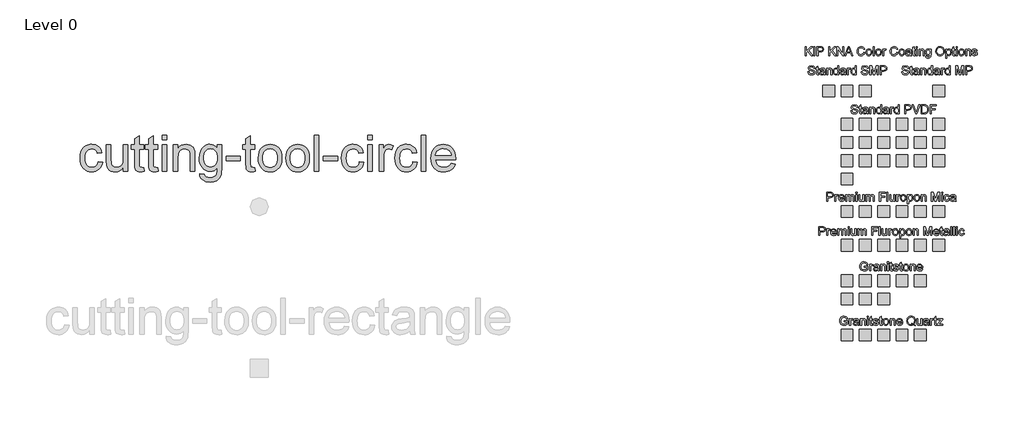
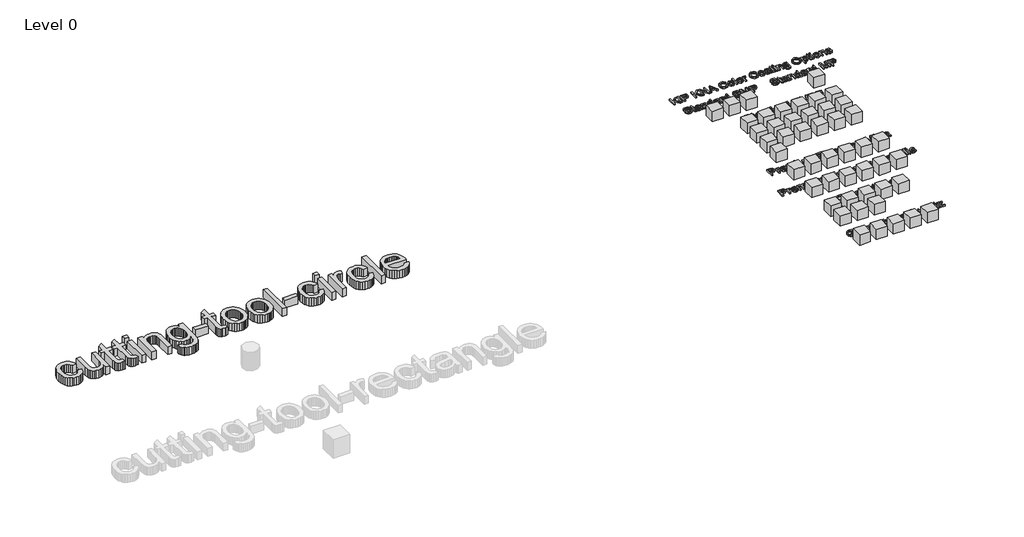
# One storey, part 3 of 3: 50 proxies.
"""IFC4 building model written with IfcOpenShell, lengths in millimetres."""

from ifc_helpers import new_model, si_unit, origin, origin_with_axes, place, context, project, spatial, polyline, outline, extrude, transform, mapped, element, save
from components import ks_color_sample_ks_color_sample_0243efec, r19_kna_color_range_kingspan_quadcore_4278cd54, r19_kna_color_range_kingspan_quadcore_c5814d20, r19_kna_color_range_kingspan_quadcore_91b79b7c

model = new_model("IFC4")

# Units and contexts
model_context = context("Model", 3, world=origin())
ifc_project = project(units=[si_unit("LENGTHUNIT", "METRE", prefix="MILLI")], contexts=[model_context])

# Site, building, storey
site = spatial("IfcSite", under=ifc_project)
building = spatial("IfcBuilding", under=site)
storey = spatial("IfcBuildingStorey", under=building, Name="Level 0", Elevation=0.0)

# Proxies
placement = place(None, origin())
element("IfcBuildingElementProxy", 1, Name="24\" Arial", ObjectType="24\" Arial", at=placement, inside=storey, context=model_context, shape_type="SweptSolid", body=[
    extrude(outline(polyline([(-204.0702103, 12441.0718493), (-127.9284368, 12431.5541276), (-136.20997, 12395.6256577), (-149.1574176, 12363.8333071), (-166.7707795, 12336.1770758), (-189.0500558, 12312.6569637), (-215.0564867, 12293.8864179), (-243.8513127, 12280.4788851), (-275.4345337, 12272.4343655), (-309.8061497, 12269.7528589), (-352.5104196, 12273.4939556), (-390.7997306, 12284.7172455), (-424.6740828, 12303.4227289), (-454.1334763, 12329.6104055), (-477.9789011, 12362.787659), (-495.0113474, 12402.4618729), (-505.2308151, 12448.6330472), (-508.6373044, 12501.3011819), (-502.8188534, 12569.059181), (-495.5457898, 12599.5502806), (-485.3635006, 12627.7827803), (-472.2022761, 12653.1897063), (-455.9924063, 12675.204085), (-436.7338913, 12693.8259165), (-414.4267311, 12709.0552006), (-390.0793952, 12720.8965849), (-364.7003531, 12729.3547164), (-338.2896049, 12734.4295954), (-310.8471505, 12736.1212217), (-277.0657448, 12733.7975592), (-246.5095826, 12726.8265716), (-219.178664, 12715.208259), (-195.072989, 12698.9426214), (-174.6015222, 12678.4014447), (-158.1732282, 12653.9565149), (-145.788107, 12625.6078322), (-137.4461585, 12593.3553964), (-213.587932, 12583.8376747), (-227.3997821, 12617.0567541), (-248.9076024, 12640.8696476), (-276.9216777, 12655.201998), (-310.2522929, 12659.9794482), (-336.1239515, 12657.6279017), (-359.4581705, 12650.5732623), (-380.2549501, 12638.8155299), (-398.5142902, 12622.3547046), (-413.381083, 12600.8097057), (-424.0002207, 12573.7994526), (-430.3717033, 12541.3239452), (-432.4955309, 12503.3831835), (-430.4181766, 12464.8708009), (-424.1861137, 12432.0188601), (-413.7993422, 12404.8273613), (-399.2578622, 12383.2963044), (-381.3610134, 12366.9330729), (-360.9081359, 12355.2450504), (-337.8992296, 12348.2322369), (-312.3342946, 12345.8946324), (-272.9063889, 12351.7316727), (-255.8553533, 12359.027973), (-240.5795959, 12369.2427934), (-227.5066705, 12382.4876698), (-217.0641312, 12398.8741379), (-209.2519778, 12418.4021978), (-204.0702103, 12441.0718493)])), origin_with_axes(), (0.0, 0.0, 1.0), 152.4),
    extrude(outline(polyline([(224.2272657, 12279.2705806), (224.2272657, 12356.1559261), (196.6779228, 12318.3545842), (164.5927907, 12291.3536257), (127.9718694, 12275.1530506), (86.8151588, 12269.7528589), (49.729505, 12273.5450761), (15.2091745, 12284.9217279), (-13.7529551, 12302.023884), (-34.1640067, 12322.9926146), (-47.9014996, 12348.4599558), (-56.8429529, 12379.0579439), (-61.304385, 12449.845999), (-61.304385, 12726.6035), (14.8373885, 12726.6035), (14.8373885, 12485.6861697), (15.9899251, 12437.5027037), (19.447535, 12408.0572522), (30.5453472, 12382.1623571), (49.5622013, 12362.4762882), (75.2340248, 12350.0400464), (106.2967454, 12345.8946324), (139.1440388, 12350.1329929), (169.872152, 12362.8480742), (195.2093681, 12382.8687505), (211.8839704, 12409.0238958), (221.1414419, 12444.8454773), (224.2272657, 12493.8654618), (224.2272657, 12726.6035), (300.3690392, 12726.6035), (300.3690392, 12279.2705806), (224.2272657, 12279.2705806)])), origin_with_axes(), (0.0, 0.0, 1.0), 152.4),
    extrude(outline(polyline([(566.8652465, 12342.77163), (576.3829682, 12277.0398646), (546.2311233, 12271.5746103), (519.4253525, 12269.7528589), (482.8787883, 12272.9130399), (455.6268743, 12282.393583), (436.3683593, 12297.004773), (423.8019924, 12315.5568945), (416.8867727, 12347.418955), (414.5816995, 12401.9599618), (414.5816995, 12650.4617265), (357.4753694, 12650.4617265), (357.4753694, 12726.6035), (414.5816995, 12726.6035), (414.5816995, 12835.3137274), (490.723473, 12880.0767623), (490.723473, 12726.6035), (566.8652465, 12726.6035), (566.8652465, 12650.4617265), (490.723473, 12650.4617265), (490.723473, 12404.1906778), (494.7387618, 12364.9300758), (507.751272, 12351.0252793), (518.7375484, 12347.1772941), (533.701935, 12345.8946324), (566.8652465, 12342.77163)])), origin_with_axes(), (0.0, 0.0, 1.0), 152.4),
    extrude(outline(polyline([(804.8082888, 12342.77163), (814.3260105, 12277.0398646), (784.1741656, 12271.5746103), (757.3683947, 12269.7528589), (720.8218306, 12272.9130399), (693.5699165, 12282.393583), (674.3114015, 12297.004773), (661.7450346, 12315.5568945), (654.829815, 12347.418955), (652.5247417, 12401.9599618), (652.5247417, 12650.4617265), (595.4184116, 12650.4617265), (595.4184116, 12726.6035), (652.5247417, 12726.6035), (652.5247417, 12835.3137274), (728.6665153, 12880.0767623), (728.6665153, 12726.6035), (804.8082888, 12726.6035), (804.8082888, 12650.4617265), (728.6665153, 12650.4617265), (728.6665153, 12404.1906778), (732.6818041, 12364.9300758), (745.6943142, 12351.0252793), (756.6805906, 12347.1772941), (771.6449773, 12345.8946324), (804.8082888, 12342.77163)])), origin_with_axes(), (0.0, 0.0, 1.0), 152.4),
    extrude(outline(polyline([(880.9500623, 12812.2629952), (880.9500623, 12888.4047687), (957.0918358, 12888.4047687), (957.0918358, 12812.2629952), (880.9500623, 12812.2629952)])), origin_with_axes(), (0.0, 0.0, 1.0), 152.4),
    extrude(outline(polyline([(880.9500623, 12279.2705806), (880.9500623, 12726.6035), (957.0918358, 12726.6035), (957.0918358, 12279.2705806), (880.9500623, 12279.2705806)])), origin_with_axes(), (0.0, 0.0, 1.0), 152.4),
    extrude(outline(polyline([(1071.3044961, 12279.2705806), (1071.3044961, 12726.6035), (1147.4462696, 12726.6035), (1147.4462696, 12664.1434514), (1173.8988437, 12695.6337259), (1205.6679577, 12718.1267791), (1242.7536116, 12731.6226111), (1285.1558053, 12736.1212217), (1322.6876023, 12732.4963082), (1357.0592184, 12721.6215676), (1385.7239192, 12704.8540188), (1406.1349708, 12683.5506808), (1419.9839995, 12657.7673215), (1428.9626314, 12627.5597087), (1432.9779203, 12553.94608), (1432.9779203, 12279.2705806), (1356.8361468, 12279.2705806), (1356.8361468, 12543.6847863), (1354.6426093, 12583.0569241), (1348.0619971, 12611.0524101), (1335.9231841, 12631.110265), (1317.0550444, 12646.6695093), (1292.8703649, 12656.6519635), (1264.7819323, 12659.9794482), (1241.6614902, 12658.1112235), (1220.1862012, 12652.5065495), (1200.3560652, 12643.1654262), (1182.1710823, 12630.0878535), (1166.9789768, 12611.7866875), (1156.1274728, 12586.7747841), (1149.6165704, 12555.0521433), (1147.4462696, 12516.6187652), (1147.4462696, 12279.2705806), (1071.3044961, 12279.2705806)])), origin_with_axes(), (0.0, 0.0, 1.0), 152.4),
    extrude(outline(polyline([(1518.6374155, 12241.1996938), (1594.779189, 12231.6819721), (1603.1815527, 12207.8876679), (1619.4657796, 12191.5290838), (1651.4765545, 12178.8140025), (1693.3768371, 12174.575642), (1738.0655148, 12179.3716815), (1756.1157252, 12185.3667308), (1771.3031835, 12193.7597998), (1794.3539157, 12216.810532), (1808.4817838, 12247.5944131), (1812.6086085, 12280.34876), (1813.6867879, 12336.3769107), (1788.3495717, 12311.3928913), (1760.0752462, 12293.5471631), (1728.8638112, 12282.8397262), (1694.7152668, 12279.2705806), (1652.9683459, 12283.4252892), (1616.2126521, 12295.889415), (1584.4481854, 12316.6629579), (1557.6749459, 12345.745918), (1536.4320231, 12380.6380345), (1521.2585068, 12418.8390463), (1512.1543971, 12460.3489536), (1509.1196938, 12505.1677563), (1514.5663588, 12566.642572), (1530.9063536, 12623.1726338), (1543.0172827, 12648.6632117), (1557.5634101, 12671.0772604), (1574.5447358, 12690.4147799), (1593.9612598, 12706.6757702), (1615.5016114, 12719.5581552), (1638.8544197, 12728.7598588), (1664.0196848, 12734.280881), (1690.9974067, 12736.1212217), (1726.6052112, 12731.9572185), (1758.9227096, 12719.4652087), (1787.9499018, 12698.6451925), (1813.6867879, 12669.4971699), (1813.6867879, 12726.6035), (1889.8285614, 12726.6035), (1889.8285614, 12340.3921996), (1884.6235573, 12251.2193266), (1878.1173023, 12218.0513678), (1869.0085452, 12192.4957274), (1857.0788618, 12171.8848408), (1842.1098278, 12153.5511435), (1824.1014433, 12137.4946355), (1803.0537082, 12123.7153167), (1779.1803994, 12112.6546831), (1752.695294, 12104.7542306), (1723.5983919, 12100.013959), (1691.8896931, 12098.4338685), (1654.585615, 12100.6599372), (1621.0458702, 12107.3381433), (1591.2704586, 12118.4684868), (1565.2593803, 12134.0509676), (1544.2488238, 12154.1041752), (1529.4749775, 12178.6466988), (1520.9378414, 12207.6785383), (1518.6374155, 12241.1996938)]), holes=[polyline([(1585.2614673, 12510.3727604), (1587.2923484, 12472.7247802), (1593.3849915, 12440.5327596), (1603.5393967, 12413.7966986), (1617.755564, 12392.5165973), (1635.0389659, 12376.2834909), (1654.3950747, 12364.6884149), (1675.8238904, 12357.7313693), (1699.3254132, 12355.4123541), (1722.5945697, 12357.7174273), (1743.9211443, 12364.632647), (1763.3051371, 12376.1580131), (1780.746548, 12392.2935257), (1795.1579029, 12413.3644974), (1805.4517279, 12439.6962411), (1811.6280229, 12471.2887568), (1813.6867879, 12508.1420444), (1811.5676077, 12543.4570674), (1805.210067, 12574.1526493), (1794.6141659, 12600.2287901), (1779.7799044, 12621.6854898), (1761.9620601, 12638.4390966), (1742.415411, 12650.4059586), (1721.1399569, 12657.5860758), (1698.135698, 12659.9794482), (1675.517167, 12657.6232544), (1654.6553249, 12650.554673), (1635.5501716, 12638.773704), (1618.2017072, 12622.2803474), (1603.7903523, 12601.1489605), (1593.4965273, 12575.4539003), (1587.3202323, 12545.1951669), (1585.2614673, 12510.3727604)])]), origin_with_axes(), (0.0, 0.0, 1.0), 152.4),
    extrude(outline(polyline([(1965.9703349, 12460.1072927), (1965.9703349, 12536.2490662), (2203.9133771, 12536.2490662), (2203.9133771, 12460.1072927), (1965.9703349, 12460.1072927)])), origin_with_axes(), (0.0, 0.0, 1.0), 152.4),
    extrude(outline(polyline([(2451.3741411, 12342.77163), (2460.8918628, 12277.0398646), (2430.7400179, 12271.5746103), (2403.934247, 12269.7528589), (2367.3876829, 12272.9130399), (2340.1357688, 12282.393583), (2320.8772538, 12297.004773), (2308.3108869, 12315.5568945), (2301.3956673, 12347.418955), (2299.090594, 12401.9599618), (2299.090594, 12650.4617265), (2241.9842639, 12650.4617265), (2241.9842639, 12726.6035), (2299.090594, 12726.6035), (2299.090594, 12835.3137274), (2375.2323676, 12880.0767623), (2375.2323676, 12726.6035), (2451.3741411, 12726.6035), (2451.3741411, 12650.4617265), (2375.2323676, 12650.4617265), (2375.2323676, 12404.1906778), (2379.2476564, 12364.9300758), (2392.2601665, 12351.0252793), (2403.2464429, 12347.1772941), (2418.2108296, 12345.8946324), (2451.3741411, 12342.77163)])), origin_with_axes(), (0.0, 0.0, 1.0), 152.4),
    extrude(outline(polyline([(2508.4804712, 12502.9370403), (2512.5980012, 12560.8705943), (2524.9505912, 12610.7921599), (2545.5382411, 12652.7017372), (2574.360951, 12686.599326), (2603.3788486, 12708.2651554), (2635.4082128, 12723.7407478), (2670.4490436, 12733.0261032), (2708.5013411, 12736.1212217), (2750.5085122, 12732.3522411), (2788.4910998, 12721.0452993), (2822.4491038, 12702.2003962), (2852.3825245, 12675.8175319), (2876.8135122, 12642.7889928), (2894.2642177, 12604.0070654), (2904.7346411, 12559.4717495), (2908.2247822, 12509.1830452), (2906.6818703, 12468.4260045), (2902.0531345, 12432.260521), (2894.3385749, 12400.6865947), (2883.5381915, 12373.7042255), (2869.7867567, 12350.3978904), (2853.219043, 12329.8520664), (2833.8350502, 12312.0667534), (2811.6347785, 12297.0419516), (2787.4826302, 12285.1029735), (2762.2430079, 12276.5751321), (2735.9159115, 12271.4584272), (2708.5013411, 12269.7528589), (2665.8807231, 12273.5078975), (2627.5449388, 12284.7730134), (2593.4939882, 12303.5482066), (2563.7278713, 12329.8334771), (2539.5571338, 12363.1826816), (2522.2923212, 12403.149677), (2511.9334337, 12449.7344632), (2508.4804712, 12502.9370403)]), holes=[polyline([(2584.6222447, 12503.0857547), (2586.8250768, 12466.1534626), (2593.433573, 12434.175219), (2604.4477334, 12407.1510238), (2619.8675579, 12385.0808772), (2638.6241617, 12367.9368951), (2659.6486602, 12355.6911936), (2682.9410534, 12348.3437727), (2708.5013411, 12345.8946324), (2733.9315037, 12348.3577147), (2757.1309504, 12355.7469615), (2778.099681, 12368.0623729), (2796.8376955, 12385.3039488), (2812.25752, 12407.5925197), (2823.2716804, 12435.0489161), (2829.8801766, 12467.6731379), (2832.0830087, 12505.4651851), (2829.8662346, 12541.2263513), (2823.2159125, 12572.3680765), (2812.1320422, 12598.8903605), (2796.6146239, 12620.7932034), (2777.8068995, 12637.9371855), (2756.8521109, 12650.182887), (2733.7502581, 12657.5303079), (2708.5013411, 12659.9794482), (2682.9410534, 12657.5396025), (2659.6486602, 12650.2200656), (2638.6241617, 12638.0208374), (2619.8675579, 12620.9419178), (2604.4477334, 12598.9368337), (2593.433573, 12571.9591119), (2586.8250768, 12540.0087522), (2584.6222447, 12503.0857547)])]), origin_with_axes(), (0.0, 0.0, 1.0), 152.4),
    extrude(outline(polyline([(2974.848834, 12502.9370403), (2978.966364, 12560.8705943), (2991.318954, 12610.7921599), (3011.9066039, 12652.7017372), (3040.7293138, 12686.599326), (3069.7472114, 12708.2651554), (3101.7765756, 12723.7407478), (3136.8174064, 12733.0261032), (3174.8697039, 12736.1212217), (3216.876875, 12732.3522411), (3254.8594625, 12721.0452993), (3288.8174666, 12702.2003962), (3318.7508872, 12675.8175319), (3343.181875, 12642.7889928), (3360.6325805, 12604.0070654), (3371.1030039, 12559.4717495), (3374.593145, 12509.1830452), (3373.0502331, 12468.4260045), (3368.4214973, 12432.260521), (3360.7069377, 12400.6865947), (3349.9065543, 12373.7042255), (3336.1551195, 12350.3978904), (3319.5874058, 12329.8520664), (3300.203413, 12312.0667534), (3278.0031413, 12297.0419516), (3253.850993, 12285.1029735), (3228.6113707, 12276.5751321), (3202.2842743, 12271.4584272), (3174.8697039, 12269.7528589), (3132.2490859, 12273.5078975), (3093.9133016, 12284.7730134), (3059.862351, 12303.5482066), (3030.0962341, 12329.8334771), (3005.9254966, 12363.1826816), (2988.660684, 12403.149677), (2978.3017965, 12449.7344632), (2974.848834, 12502.9370403)]), holes=[polyline([(3050.9906075, 12503.0857547), (3053.1934396, 12466.1534626), (3059.8019358, 12434.175219), (3070.8160962, 12407.1510238), (3086.2359207, 12385.0808772), (3104.9925245, 12367.9368951), (3126.017023, 12355.6911936), (3149.3094161, 12348.3437727), (3174.8697039, 12345.8946324), (3200.2998665, 12348.3577147), (3223.4993131, 12355.7469615), (3244.4680437, 12368.0623729), (3263.2060583, 12385.3039488), (3278.6258828, 12407.5925197), (3289.6400432, 12435.0489161), (3296.2485394, 12467.6731379), (3298.4513715, 12505.4651851), (3296.2345974, 12541.2263513), (3289.5842753, 12572.3680765), (3278.500405, 12598.8903605), (3262.9829867, 12620.7932034), (3244.1752623, 12637.9371855), (3223.2204736, 12650.182887), (3200.1186209, 12657.5303079), (3174.8697039, 12659.9794482), (3149.3094161, 12657.5396025), (3126.017023, 12650.2200656), (3104.9925245, 12638.0208374), (3086.2359207, 12620.9419178), (3070.8160962, 12598.9368337), (3059.8019358, 12571.9591119), (3053.1934396, 12540.0087522), (3050.9906075, 12503.0857547)])]), origin_with_axes(), (0.0, 0.0, 1.0), 152.4),
    extrude(outline(polyline([(3460.2526402, 12279.2705806), (3460.2526402, 12888.4047687), (3536.3944137, 12888.4047687), (3536.3944137, 12279.2705806), (3460.2526402, 12279.2705806)])), origin_with_axes(), (0.0, 0.0, 1.0), 152.4),
    extrude(outline(polyline([(3612.5361872, 12460.1072927), (3612.5361872, 12536.2490662), (3850.4792295, 12536.2490662), (3850.4792295, 12460.1072927), (3612.5361872, 12460.1072927)])), origin_with_axes(), (0.0, 0.0, 1.0), 152.4),
    extrude(outline(polyline([(4221.6703753, 12441.0718493), (4297.8121489, 12431.5541276), (4289.5306156, 12395.6256577), (4276.5831681, 12363.8333071), (4258.9698061, 12336.1770758), (4236.6905299, 12312.6569637), (4210.6840989, 12293.8864179), (4181.889273, 12280.4788851), (4150.306052, 12272.4343655), (4115.934436, 12269.7528589), (4073.2301661, 12273.4939556), (4034.9408551, 12284.7172455), (4001.0665028, 12303.4227289), (3971.6071094, 12329.6104055), (3947.7616846, 12362.787659), (3930.7292383, 12402.4618729), (3920.5097705, 12448.6330472), (3917.1032813, 12501.3011819), (3922.9217322, 12569.059181), (3930.1947959, 12599.5502806), (3940.3770851, 12627.7827803), (3953.5383096, 12653.1897063), (3969.7481794, 12675.204085), (3989.0066944, 12693.8259165), (4011.3138546, 12709.0552006), (4035.6611905, 12720.8965849), (4061.0402325, 12729.3547164), (4087.4509808, 12734.4295954), (4114.8934351, 12736.1212217), (4148.6748409, 12733.7975592), (4179.231003, 12726.8265716), (4206.5619216, 12715.208259), (4230.6675966, 12698.9426214), (4251.1390635, 12678.4014447), (4267.5673575, 12653.9565149), (4279.9524787, 12625.6078322), (4288.2944272, 12593.3553964), (4212.1526537, 12583.8376747), (4198.3408036, 12617.0567541), (4176.8329833, 12640.8696476), (4148.818908, 12655.201998), (4115.4882927, 12659.9794482), (4089.6166342, 12657.6279017), (4066.2824152, 12650.5732623), (4045.4856356, 12638.8155299), (4027.2262955, 12622.3547046), (4012.3595027, 12600.8097057), (4001.740365, 12573.7994526), (3995.3688823, 12541.3239452), (3993.2450548, 12503.3831835), (3995.3224091, 12464.8708009), (4001.554472, 12432.0188601), (4011.9412434, 12404.8273613), (4026.4827235, 12383.2963044), (4044.3795723, 12366.9330729), (4064.8324498, 12355.2450504), (4087.8413561, 12348.2322369), (4113.4062911, 12345.8946324), (4152.8341968, 12351.7316727), (4169.8852324, 12359.027973), (4185.1609898, 12369.2427934), (4198.2339152, 12382.4876698), (4208.6764545, 12398.8741379), (4216.4886079, 12418.4021978), (4221.6703753, 12441.0718493)])), origin_with_axes(), (0.0, 0.0, 1.0), 152.4),
    extrude(outline(polyline([(4364.4362007, 12812.2629952), (4364.4362007, 12888.4047687), (4440.5779742, 12888.4047687), (4440.5779742, 12812.2629952), (4364.4362007, 12812.2629952)])), origin_with_axes(), (0.0, 0.0, 1.0), 152.4),
    extrude(outline(polyline([(4364.4362007, 12279.2705806), (4364.4362007, 12726.6035), (4440.5779742, 12726.6035), (4440.5779742, 12279.2705806), (4364.4362007, 12279.2705806)])), origin_with_axes(), (0.0, 0.0, 1.0), 152.4),
    extrude(outline(polyline([(4554.7906345, 12279.2705806), (4554.7906345, 12726.6035), (4621.4146863, 12726.6035), (4621.4146863, 12660.4255914), (4646.0269197, 12698.7939069), (4668.705866, 12721.398496), (4691.4591694, 12732.4405403), (4716.2944744, 12736.1212217), (4754.2166468, 12730.2470028), (4792.7336767, 12712.6243463), (4767.3035141, 12644.364436), (4740.5349218, 12656.0756951), (4713.7663296, 12659.9794482), (4691.0316155, 12656.2244095), (4670.7135104, 12644.9592936), (4654.2991583, 12627.0392083), (4643.2757033, 12603.3192612), (4634.0182318, 12560.7869424), (4630.932408, 12514.3880492), (4630.932408, 12279.2705806), (4554.7906345, 12279.2705806)])), origin_with_axes(), (0.0, 0.0, 1.0), 152.4),
    extrude(outline(polyline([(5125.8539359, 12441.0718493), (5201.9957094, 12431.5541276), (5193.7141762, 12395.6256577), (5180.7667286, 12363.8333071), (5163.1533667, 12336.1770758), (5140.8740904, 12312.6569637), (5114.8676595, 12293.8864179), (5086.0728335, 12280.4788851), (5054.4896125, 12272.4343655), (5020.1179965, 12269.7528589), (4977.4137266, 12273.4939556), (4939.1244156, 12284.7172455), (4905.2500634, 12303.4227289), (4875.7906699, 12329.6104055), (4851.9452451, 12362.787659), (4834.9127988, 12402.4618729), (4824.6933311, 12448.6330472), (4821.2868418, 12501.3011819), (4827.1052928, 12569.059181), (4834.3783564, 12599.5502806), (4844.5606456, 12627.7827803), (4857.7218701, 12653.1897063), (4873.9317399, 12675.204085), (4893.1902549, 12693.8259165), (4915.4974151, 12709.0552006), (4939.844751, 12720.8965849), (4965.2237931, 12729.3547164), (4991.6345413, 12734.4295954), (5019.0769957, 12736.1212217), (5052.8584014, 12733.7975592), (5083.4145636, 12726.8265716), (5110.7454821, 12715.208259), (5134.8511571, 12698.9426214), (5155.322624, 12678.4014447), (5171.750918, 12653.9565149), (5184.1360392, 12625.6078322), (5192.4779877, 12593.3553964), (5116.3362142, 12583.8376747), (5102.5243641, 12617.0567541), (5081.0165438, 12640.8696476), (5053.0024685, 12655.201998), (5019.6718533, 12659.9794482), (4993.8001947, 12657.6279017), (4970.4659757, 12650.5732623), (4949.6691961, 12638.8155299), (4931.409856, 12622.3547046), (4916.5430632, 12600.8097057), (4905.9239255, 12573.7994526), (4899.5524429, 12541.3239452), (4897.4286153, 12503.3831835), (4899.5059696, 12464.8708009), (4905.7380325, 12432.0188601), (4916.124804, 12404.8273613), (4930.666284, 12383.2963044), (4948.5631328, 12366.9330729), (4969.0160103, 12355.2450504), (4992.0249166, 12348.2322369), (5017.5898516, 12345.8946324), (5057.0177573, 12351.7316727), (5074.0687929, 12359.027973), (5089.3445503, 12369.2427934), (5102.4174757, 12382.4876698), (5112.860015, 12398.8741379), (5120.6721684, 12418.4021978), (5125.8539359, 12441.0718493)])), origin_with_axes(), (0.0, 0.0, 1.0), 152.4),
    extrude(outline(polyline([(5268.6197612, 12279.2705806), (5268.6197612, 12888.4047687), (5344.7615347, 12888.4047687), (5344.7615347, 12279.2705806), (5268.6197612, 12279.2705806)])), origin_with_axes(), (0.0, 0.0, 1.0), 152.4),
    extrude(outline(polyline([(5772.1667244, 12412.5186843), (5846.8213539, 12403.0009626), (5835.3749923, 12373.1000732), (5819.9226365, 12346.7497402), (5800.4642865, 12323.9499636), (5776.9999424, 12304.7007432), (5749.771265, 12289.4110438), (5719.0199152, 12278.48983), (5684.745893, 12271.9371017), (5646.9491984, 12269.7528589), (5599.704492, 12273.5218395), (5557.6090217, 12284.8287814), (5520.6627876, 12303.6736844), (5488.8657897, 12330.0565487), (5463.2962073, 12363.2430968), (5445.0322199, 12402.4990515), (5434.0738274, 12447.8244126), (5430.4210299, 12499.2191803), (5434.111006, 12552.3566948), (5445.1809343, 12599.1924366), (5463.6308147, 12639.7264056), (5489.4606473, 12673.9586019), (5521.1739934, 12701.1547481), (5557.2744143, 12720.5805668), (5597.7619101, 12732.236058), (5642.6364807, 12736.1212217), (5686.0657333, 12732.2453526), (5725.3402772, 12720.6177454), (5760.4601126, 12701.2383999), (5791.4252393, 12674.1073163), (5816.7020402, 12639.9494772), (5834.756898, 12599.4898654), (5845.5898127, 12552.7284808), (5849.2007843, 12499.6653235), (5848.7546411, 12479.1427361), (5506.5628034, 12479.1427361), (5510.9731149, 12448.7585249), (5519.7426173, 12422.1479417), (5532.8713105, 12399.3109865), (5550.3591947, 12380.2476591), (5571.2396261, 12365.21821), (5594.5459612, 12354.4828891), (5620.2781999, 12348.0416966), (5648.4363424, 12345.8946324), (5688.9610168, 12349.8727427), (5723.0909719, 12361.8070734), (5750.8262077, 12382.4411966), (5772.1667244, 12412.5186843)]), holes=[polyline([(5506.5628034, 12555.2845096), (5773.0590108, 12555.2845096), (5762.7605385, 12595.5117552), (5753.9027369, 12611.3312496), (5742.5725585, 12624.2879918), (5721.8083102, 12639.903004), (5698.1813097, 12651.0565841), (5671.6915569, 12657.7487322), (5642.3390519, 12659.9794482), (5615.5658124, 12658.1995227), (5591.0139941, 12652.8597462), (5568.6835973, 12643.9601188), (5548.5746218, 12631.5006403), (5531.7001846, 12616.0575792), (5519.0734025, 12598.2072037), (5510.6942754, 12577.9495138), (5506.5628034, 12555.2845096)])]), origin_with_axes(), (0.0, 0.0, 1.0), 152.4),
])
ks_color_sample_ks_color_sample_shape = ks_color_sample_ks_color_sample_0243efec(model_context)
element("IfcBuildingElementProxy", 2, Name="KS_Color Sample : KS_Color Sample", ObjectType="KS_Color Sample : KS_Color Sample", at=placement, inside=storey, context=model_context, shape_type="MappedRepresentation", body=[
    mapped(ks_color_sample_ks_color_sample_shape, transform((12166.5853815, 13639.2290821, 0.0), x_axis=(1.0, 0.0, 0.0), y_axis=(0.0, 1.0, 0.0), z_axis=(0.0, 0.0, 1.0))),
])
element("IfcBuildingElementProxy", 3, Name="KS_Color Sample : KS_Color Sample", ObjectType="KS_Color Sample : KS_Color Sample", at=placement, inside=storey, context=model_context, shape_type="MappedRepresentation", body=[
    mapped(ks_color_sample_ks_color_sample_shape, transform((12476.5853815, 13639.2290821, 0.0), x_axis=(1.0, 0.0, 0.0), y_axis=(0.0, 1.0, 0.0), z_axis=(0.0, 0.0, 1.0))),
])
element("IfcBuildingElementProxy", 4, Name="KS_Color Sample : KS_Color Sample", ObjectType="KS_Color Sample : KS_Color Sample", at=placement, inside=storey, context=model_context, shape_type="MappedRepresentation", body=[
    mapped(ks_color_sample_ks_color_sample_shape, transform((12786.5853815, 13639.2290821, 0.0), x_axis=(1.0, 0.0, 0.0), y_axis=(0.0, 1.0, 0.0), z_axis=(0.0, 0.0, 1.0))),
])
element("IfcBuildingElementProxy", 5, Name="KS_Color Sample : KS_Color Sample", ObjectType="KS_Color Sample : KS_Color Sample", at=placement, inside=storey, context=model_context, shape_type="MappedRepresentation", body=[
    mapped(ks_color_sample_ks_color_sample_shape, transform((14026.5853815, 13639.2290821, 0.0), x_axis=(1.0, 0.0, 0.0), y_axis=(0.0, 1.0, 0.0), z_axis=(0.0, 0.0, 1.0))),
])
element("IfcBuildingElementProxy", 6, Name="KS_Color Sample : KS_Color Sample", ObjectType="KS_Color Sample : KS_Color Sample", at=placement, inside=storey, context=model_context, shape_type="MappedRepresentation", body=[
    mapped(ks_color_sample_ks_color_sample_shape, transform((12786.5853815, 13079.2290821, 0.0), x_axis=(1.0, 0.0, 0.0), y_axis=(0.0, 1.0, 0.0), z_axis=(0.0, 0.0, 1.0))),
])
element("IfcBuildingElementProxy", 7, Name="KS_Color Sample : KS_Color Sample", ObjectType="KS_Color Sample : KS_Color Sample", at=placement, inside=storey, context=model_context, shape_type="MappedRepresentation", body=[
    mapped(ks_color_sample_ks_color_sample_shape, transform((13096.5853815, 13079.2290821, 0.0), x_axis=(1.0, 0.0, 0.0), y_axis=(0.0, 1.0, 0.0), z_axis=(0.0, 0.0, 1.0))),
])
element("IfcBuildingElementProxy", 8, Name="KS_Color Sample : KS_Color Sample", ObjectType="KS_Color Sample : KS_Color Sample", at=placement, inside=storey, context=model_context, shape_type="MappedRepresentation", body=[
    mapped(ks_color_sample_ks_color_sample_shape, transform((13406.5853815, 13079.2290821, 0.0), x_axis=(1.0, 0.0, 0.0), y_axis=(0.0, 1.0, 0.0), z_axis=(0.0, 0.0, 1.0))),
])
element("IfcBuildingElementProxy", 9, Name="KS_Color Sample : KS_Color Sample", ObjectType="KS_Color Sample : KS_Color Sample", at=placement, inside=storey, context=model_context, shape_type="MappedRepresentation", body=[
    mapped(ks_color_sample_ks_color_sample_shape, transform((13716.5853815, 13079.2290821, 0.0), x_axis=(1.0, 0.0, 0.0), y_axis=(0.0, 1.0, 0.0), z_axis=(0.0, 0.0, 1.0))),
])
element("IfcBuildingElementProxy", 10, Name="KS_Color Sample : KS_Color Sample", ObjectType="KS_Color Sample : KS_Color Sample", at=placement, inside=storey, context=model_context, shape_type="MappedRepresentation", body=[
    mapped(ks_color_sample_ks_color_sample_shape, transform((12476.5853815, 11599.2290821, 0.0), x_axis=(1.0, 0.0, 0.0), y_axis=(0.0, 1.0, 0.0), z_axis=(0.0, 0.0, 1.0))),
])
element("IfcBuildingElementProxy", 11, Name="KS_Color Sample : KS_Color Sample", ObjectType="KS_Color Sample : KS_Color Sample", at=placement, inside=storey, context=model_context, shape_type="MappedRepresentation", body=[
    mapped(ks_color_sample_ks_color_sample_shape, transform((12786.5853815, 11599.2290821, 0.0), x_axis=(1.0, 0.0, 0.0), y_axis=(0.0, 1.0, 0.0), z_axis=(0.0, 0.0, 1.0))),
])
element("IfcBuildingElementProxy", 12, Name="KS_Color Sample : KS_Color Sample", ObjectType="KS_Color Sample : KS_Color Sample", at=placement, inside=storey, context=model_context, shape_type="MappedRepresentation", body=[
    mapped(ks_color_sample_ks_color_sample_shape, transform((13096.5853815, 11599.2290821, 0.0), x_axis=(1.0, 0.0, 0.0), y_axis=(0.0, 1.0, 0.0), z_axis=(0.0, 0.0, 1.0))),
])
element("IfcBuildingElementProxy", 13, Name="KS_Color Sample : KS_Color Sample", ObjectType="KS_Color Sample : KS_Color Sample", at=placement, inside=storey, context=model_context, shape_type="MappedRepresentation", body=[
    mapped(ks_color_sample_ks_color_sample_shape, transform((13406.5853815, 11599.2290821, 0.0), x_axis=(1.0, 0.0, 0.0), y_axis=(0.0, 1.0, 0.0), z_axis=(0.0, 0.0, 1.0))),
])
element("IfcBuildingElementProxy", 14, Name="KS_Color Sample : KS_Color Sample", ObjectType="KS_Color Sample : KS_Color Sample", at=placement, inside=storey, context=model_context, shape_type="MappedRepresentation", body=[
    mapped(ks_color_sample_ks_color_sample_shape, transform((14026.5853815, 13079.2290821, 0.0), x_axis=(1.0, 0.0, 0.0), y_axis=(0.0, 1.0, 0.0), z_axis=(0.0, 0.0, 1.0))),
])
element("IfcBuildingElementProxy", 15, Name="KS_Color Sample : KS_Color Sample", ObjectType="KS_Color Sample : KS_Color Sample", at=placement, inside=storey, context=model_context, shape_type="MappedRepresentation", body=[
    mapped(ks_color_sample_ks_color_sample_shape, transform((13716.5853815, 12769.2290821, 0.0), x_axis=(1.0, 0.0, 0.0), y_axis=(0.0, 1.0, 0.0), z_axis=(0.0, 0.0, 1.0))),
])
element("IfcBuildingElementProxy", 16, Name="KS_Color Sample : KS_Color Sample", ObjectType="KS_Color Sample : KS_Color Sample", at=placement, inside=storey, context=model_context, shape_type="MappedRepresentation", body=[
    mapped(ks_color_sample_ks_color_sample_shape, transform((14026.5853815, 12769.2290821, 0.0), x_axis=(1.0, 0.0, 0.0), y_axis=(0.0, 1.0, 0.0), z_axis=(0.0, 0.0, 1.0))),
])
element("IfcBuildingElementProxy", 17, Name="KS_Color Sample : KS_Color Sample", ObjectType="KS_Color Sample : KS_Color Sample", at=placement, inside=storey, context=model_context, shape_type="MappedRepresentation", body=[
    mapped(ks_color_sample_ks_color_sample_shape, transform((12476.5853815, 12769.2290821, 0.0), x_axis=(1.0, 0.0, 0.0), y_axis=(0.0, 1.0, 0.0), z_axis=(0.0, 0.0, 1.0))),
])
element("IfcBuildingElementProxy", 18, Name="KS_Color Sample : KS_Color Sample", ObjectType="KS_Color Sample : KS_Color Sample", at=placement, inside=storey, context=model_context, shape_type="MappedRepresentation", body=[
    mapped(ks_color_sample_ks_color_sample_shape, transform((13096.5853815, 12769.2290821, 0.0), x_axis=(1.0, 0.0, 0.0), y_axis=(0.0, 1.0, 0.0), z_axis=(0.0, 0.0, 1.0))),
])
element("IfcBuildingElementProxy", 19, Name="KS_Color Sample : KS_Color Sample", ObjectType="KS_Color Sample : KS_Color Sample", at=placement, inside=storey, context=model_context, shape_type="MappedRepresentation", body=[
    mapped(ks_color_sample_ks_color_sample_shape, transform((13406.5853815, 12769.2290821, 0.0), x_axis=(1.0, 0.0, 0.0), y_axis=(0.0, 1.0, 0.0), z_axis=(0.0, 0.0, 1.0))),
])
element("IfcBuildingElementProxy", 20, Name="KS_Color Sample : KS_Color Sample", ObjectType="KS_Color Sample : KS_Color Sample", at=placement, inside=storey, context=model_context, shape_type="MappedRepresentation", body=[
    mapped(ks_color_sample_ks_color_sample_shape, transform((12476.5853815, 12459.2290821, 0.0), x_axis=(1.0, 0.0, 0.0), y_axis=(0.0, 1.0, 0.0), z_axis=(0.0, 0.0, 1.0))),
])
element("IfcBuildingElementProxy", 21, Name="KS_Color Sample : KS_Color Sample", ObjectType="KS_Color Sample : KS_Color Sample", at=placement, inside=storey, context=model_context, shape_type="MappedRepresentation", body=[
    mapped(ks_color_sample_ks_color_sample_shape, transform((12786.5853815, 12459.2290821, 0.0), x_axis=(1.0, 0.0, 0.0), y_axis=(0.0, 1.0, 0.0), z_axis=(0.0, 0.0, 1.0))),
])
element("IfcBuildingElementProxy", 22, Name="KS_Color Sample : KS_Color Sample", ObjectType="KS_Color Sample : KS_Color Sample", at=placement, inside=storey, context=model_context, shape_type="MappedRepresentation", body=[
    mapped(ks_color_sample_ks_color_sample_shape, transform((13096.5853815, 12459.2290821, 0.0), x_axis=(1.0, 0.0, 0.0), y_axis=(0.0, 1.0, 0.0), z_axis=(0.0, 0.0, 1.0))),
])
element("IfcBuildingElementProxy", 23, Name="KS_Color Sample : KS_Color Sample", ObjectType="KS_Color Sample : KS_Color Sample", at=placement, inside=storey, context=model_context, shape_type="MappedRepresentation", body=[
    mapped(ks_color_sample_ks_color_sample_shape, transform((13406.5853815, 12459.2290821, 0.0), x_axis=(1.0, 0.0, 0.0), y_axis=(0.0, 1.0, 0.0), z_axis=(0.0, 0.0, 1.0))),
])
element("IfcBuildingElementProxy", 24, Name="KS_Color Sample : KS_Color Sample", ObjectType="KS_Color Sample : KS_Color Sample", at=placement, inside=storey, context=model_context, shape_type="MappedRepresentation", body=[
    mapped(ks_color_sample_ks_color_sample_shape, transform((13716.5853815, 12459.2290821, 0.0), x_axis=(1.0, 0.0, 0.0), y_axis=(0.0, 1.0, 0.0), z_axis=(0.0, 0.0, 1.0))),
])
element("IfcBuildingElementProxy", 25, Name="KS_Color Sample : KS_Color Sample", ObjectType="KS_Color Sample : KS_Color Sample", at=placement, inside=storey, context=model_context, shape_type="MappedRepresentation", body=[
    mapped(ks_color_sample_ks_color_sample_shape, transform((14026.5853815, 12459.2290821, 0.0), x_axis=(1.0, 0.0, 0.0), y_axis=(0.0, 1.0, 0.0), z_axis=(0.0, 0.0, 1.0))),
])
element("IfcBuildingElementProxy", 26, Name="KS_Color Sample : KS_Color Sample", ObjectType="KS_Color Sample : KS_Color Sample", at=placement, inside=storey, context=model_context, shape_type="MappedRepresentation", body=[
    mapped(ks_color_sample_ks_color_sample_shape, transform((12476.5853815, 12149.2290821, 0.0), x_axis=(1.0, 0.0, 0.0), y_axis=(0.0, 1.0, 0.0), z_axis=(0.0, 0.0, 1.0))),
])
element("IfcBuildingElementProxy", 27, Name="KS_Color Sample : KS_Color Sample", ObjectType="KS_Color Sample : KS_Color Sample", at=placement, inside=storey, context=model_context, shape_type="MappedRepresentation", body=[
    mapped(ks_color_sample_ks_color_sample_shape, transform((13716.5853815, 11599.2290821, 0.0), x_axis=(1.0, 0.0, 0.0), y_axis=(0.0, 1.0, 0.0), z_axis=(0.0, 0.0, 1.0))),
])
element("IfcBuildingElementProxy", 28, Name="KS_Color Sample : KS_Color Sample", ObjectType="KS_Color Sample : KS_Color Sample", at=placement, inside=storey, context=model_context, shape_type="MappedRepresentation", body=[
    mapped(ks_color_sample_ks_color_sample_shape, transform((14026.5853815, 11599.2290821, 0.0), x_axis=(1.0, 0.0, 0.0), y_axis=(0.0, 1.0, 0.0), z_axis=(0.0, 0.0, 1.0))),
])
element("IfcBuildingElementProxy", 29, Name="KS_Color Sample : KS_Color Sample", ObjectType="KS_Color Sample : KS_Color Sample", at=placement, inside=storey, context=model_context, shape_type="MappedRepresentation", body=[
    mapped(ks_color_sample_ks_color_sample_shape, transform((12476.5853815, 11029.2290821, 0.0), x_axis=(1.0, 0.0, 0.0), y_axis=(0.0, 1.0, 0.0), z_axis=(0.0, 0.0, 1.0))),
])
element("IfcBuildingElementProxy", 30, Name="KS_Color Sample : KS_Color Sample", ObjectType="KS_Color Sample : KS_Color Sample", at=placement, inside=storey, context=model_context, shape_type="MappedRepresentation", body=[
    mapped(ks_color_sample_ks_color_sample_shape, transform((12786.5853815, 11029.2290821, 0.0), x_axis=(1.0, 0.0, 0.0), y_axis=(0.0, 1.0, 0.0), z_axis=(0.0, 0.0, 1.0))),
])
element("IfcBuildingElementProxy", 31, Name="KS_Color Sample : KS_Color Sample", ObjectType="KS_Color Sample : KS_Color Sample", at=placement, inside=storey, context=model_context, shape_type="MappedRepresentation", body=[
    mapped(ks_color_sample_ks_color_sample_shape, transform((13096.5853815, 11029.2290821, 0.0), x_axis=(1.0, 0.0, 0.0), y_axis=(0.0, 1.0, 0.0), z_axis=(0.0, 0.0, 1.0))),
])
element("IfcBuildingElementProxy", 32, Name="KS_Color Sample : KS_Color Sample", ObjectType="KS_Color Sample : KS_Color Sample", at=placement, inside=storey, context=model_context, shape_type="MappedRepresentation", body=[
    mapped(ks_color_sample_ks_color_sample_shape, transform((13406.5853815, 11029.2290821, 0.0), x_axis=(1.0, 0.0, 0.0), y_axis=(0.0, 1.0, 0.0), z_axis=(0.0, 0.0, 1.0))),
])
element("IfcBuildingElementProxy", 33, Name="KS_Color Sample : KS_Color Sample", ObjectType="KS_Color Sample : KS_Color Sample", at=placement, inside=storey, context=model_context, shape_type="MappedRepresentation", body=[
    mapped(ks_color_sample_ks_color_sample_shape, transform((13716.5853815, 11029.2290821, 0.0), x_axis=(1.0, 0.0, 0.0), y_axis=(0.0, 1.0, 0.0), z_axis=(0.0, 0.0, 1.0))),
])
element("IfcBuildingElementProxy", 34, Name="KS_Color Sample : KS_Color Sample", ObjectType="KS_Color Sample : KS_Color Sample", at=placement, inside=storey, context=model_context, shape_type="MappedRepresentation", body=[
    mapped(ks_color_sample_ks_color_sample_shape, transform((14026.5853815, 11029.2290821, 0.0), x_axis=(1.0, 0.0, 0.0), y_axis=(0.0, 1.0, 0.0), z_axis=(0.0, 0.0, 1.0))),
])
element("IfcBuildingElementProxy", 35, Name="KS_Color Sample : KS_Color Sample", ObjectType="KS_Color Sample : KS_Color Sample", at=placement, inside=storey, context=model_context, shape_type="MappedRepresentation", body=[
    mapped(ks_color_sample_ks_color_sample_shape, transform((12476.5853815, 10429.2290821, 0.0), x_axis=(1.0, 0.0, 0.0), y_axis=(0.0, 1.0, 0.0), z_axis=(0.0, 0.0, 1.0))),
])
element("IfcBuildingElementProxy", 36, Name="KS_Color Sample : KS_Color Sample", ObjectType="KS_Color Sample : KS_Color Sample", at=placement, inside=storey, context=model_context, shape_type="MappedRepresentation", body=[
    mapped(ks_color_sample_ks_color_sample_shape, transform((12786.5853815, 10429.2290821, 0.0), x_axis=(1.0, 0.0, 0.0), y_axis=(0.0, 1.0, 0.0), z_axis=(0.0, 0.0, 1.0))),
])
element("IfcBuildingElementProxy", 37, Name="KS_Color Sample : KS_Color Sample", ObjectType="KS_Color Sample : KS_Color Sample", at=placement, inside=storey, context=model_context, shape_type="MappedRepresentation", body=[
    mapped(ks_color_sample_ks_color_sample_shape, transform((13096.5853815, 10429.2290821, 0.0), x_axis=(1.0, 0.0, 0.0), y_axis=(0.0, 1.0, 0.0), z_axis=(0.0, 0.0, 1.0))),
])
element("IfcBuildingElementProxy", 38, Name="KS_Color Sample : KS_Color Sample", ObjectType="KS_Color Sample : KS_Color Sample", at=placement, inside=storey, context=model_context, shape_type="MappedRepresentation", body=[
    mapped(ks_color_sample_ks_color_sample_shape, transform((13406.5853815, 10429.2290821, 0.0), x_axis=(1.0, 0.0, 0.0), y_axis=(0.0, 1.0, 0.0), z_axis=(0.0, 0.0, 1.0))),
])
element("IfcBuildingElementProxy", 39, Name="KS_Color Sample : KS_Color Sample", ObjectType="KS_Color Sample : KS_Color Sample", at=placement, inside=storey, context=model_context, shape_type="MappedRepresentation", body=[
    mapped(ks_color_sample_ks_color_sample_shape, transform((13716.5853815, 10429.2290821, 0.0), x_axis=(1.0, 0.0, 0.0), y_axis=(0.0, 1.0, 0.0), z_axis=(0.0, 0.0, 1.0))),
])
element("IfcBuildingElementProxy", 40, Name="KS_Color Sample : KS_Color Sample", ObjectType="KS_Color Sample : KS_Color Sample", at=placement, inside=storey, context=model_context, shape_type="MappedRepresentation", body=[
    mapped(ks_color_sample_ks_color_sample_shape, transform((12476.5853815, 10119.2290821, 0.0), x_axis=(1.0, 0.0, 0.0), y_axis=(0.0, 1.0, 0.0), z_axis=(0.0, 0.0, 1.0))),
])
element("IfcBuildingElementProxy", 41, Name="KS_Color Sample : KS_Color Sample", ObjectType="KS_Color Sample : KS_Color Sample", at=placement, inside=storey, context=model_context, shape_type="MappedRepresentation", body=[
    mapped(ks_color_sample_ks_color_sample_shape, transform((12786.5853815, 10119.2290821, 0.0), x_axis=(1.0, 0.0, 0.0), y_axis=(0.0, 1.0, 0.0), z_axis=(0.0, 0.0, 1.0))),
])
element("IfcBuildingElementProxy", 42, Name="KS_Color Sample : KS_Color Sample", ObjectType="KS_Color Sample : KS_Color Sample", at=placement, inside=storey, context=model_context, shape_type="MappedRepresentation", body=[
    mapped(ks_color_sample_ks_color_sample_shape, transform((13096.5853815, 10119.2290821, 0.0), x_axis=(1.0, 0.0, 0.0), y_axis=(0.0, 1.0, 0.0), z_axis=(0.0, 0.0, 1.0))),
])
element("IfcBuildingElementProxy", 43, Name="KS_Color Sample : KS_Color Sample", ObjectType="KS_Color Sample : KS_Color Sample", at=placement, inside=storey, context=model_context, shape_type="MappedRepresentation", body=[
    mapped(ks_color_sample_ks_color_sample_shape, transform((12476.5853815, 9509.2290821, 0.0), x_axis=(1.0, 0.0, 0.0), y_axis=(0.0, 1.0, 0.0), z_axis=(0.0, 0.0, 1.0))),
])
element("IfcBuildingElementProxy", 44, Name="KS_Color Sample : KS_Color Sample", ObjectType="KS_Color Sample : KS_Color Sample", at=placement, inside=storey, context=model_context, shape_type="MappedRepresentation", body=[
    mapped(ks_color_sample_ks_color_sample_shape, transform((12786.5853815, 9509.2290821, 0.0), x_axis=(1.0, 0.0, 0.0), y_axis=(0.0, 1.0, 0.0), z_axis=(0.0, 0.0, 1.0))),
])
element("IfcBuildingElementProxy", 45, Name="KS_Color Sample : KS_Color Sample", ObjectType="KS_Color Sample : KS_Color Sample", at=placement, inside=storey, context=model_context, shape_type="MappedRepresentation", body=[
    mapped(ks_color_sample_ks_color_sample_shape, transform((13096.5853815, 9509.2290821, 0.0), x_axis=(1.0, 0.0, 0.0), y_axis=(0.0, 1.0, 0.0), z_axis=(0.0, 0.0, 1.0))),
])
element("IfcBuildingElementProxy", 46, Name="KS_Color Sample : KS_Color Sample", ObjectType="KS_Color Sample : KS_Color Sample", at=placement, inside=storey, context=model_context, shape_type="MappedRepresentation", body=[
    mapped(ks_color_sample_ks_color_sample_shape, transform((13406.5853815, 9509.2290821, 0.0), x_axis=(1.0, 0.0, 0.0), y_axis=(0.0, 1.0, 0.0), z_axis=(0.0, 0.0, 1.0))),
])
element("IfcBuildingElementProxy", 47, Name="KS_Color Sample : KS_Color Sample", ObjectType="KS_Color Sample : KS_Color Sample", at=placement, inside=storey, context=model_context, shape_type="MappedRepresentation", body=[
    mapped(ks_color_sample_ks_color_sample_shape, transform((13716.5853815, 9509.2290821, 0.0), x_axis=(1.0, 0.0, 0.0), y_axis=(0.0, 1.0, 0.0), z_axis=(0.0, 0.0, 1.0))),
])
element("IfcBuildingElementProxy", 48, Name="KS_Color Sample : KS_Color Sample", ObjectType="KS_Color Sample : KS_Color Sample", at=placement, inside=storey, context=model_context, shape_type="MappedRepresentation", body=[
    mapped(ks_color_sample_ks_color_sample_shape, transform((12476.5853815, 13079.2290821, 0.0), x_axis=(1.0, 0.0, 0.0), y_axis=(0.0, 1.0, 0.0), z_axis=(0.0, 0.0, 1.0))),
])
element("IfcBuildingElementProxy", 49, Name="KS_Color Sample : KS_Color Sample", ObjectType="KS_Color Sample : KS_Color Sample", at=placement, inside=storey, context=model_context, shape_type="MappedRepresentation", body=[
    mapped(ks_color_sample_ks_color_sample_shape, transform((12786.5853815, 12769.2290821, 0.0), x_axis=(1.0, 0.0, 0.0), y_axis=(0.0, 1.0, 0.0), z_axis=(0.0, 0.0, 1.0))),
])
r19_kna_color_range_kingspan_quadcore_shape = r19_kna_color_range_kingspan_quadcore_4278cd54(model_context)
r19_kna_color_range_kingspan_quadcore_2_shape = r19_kna_color_range_kingspan_quadcore_c5814d20(model_context)
r19_kna_color_range_kingspan_quadcore_3_shape = r19_kna_color_range_kingspan_quadcore_91b79b7c(model_context)
element("IfcBuildingElementProxy", 50, Name="R19_KNA_Color Range : Kingspan Quadcore", ObjectType="R19_KNA_Color Range : Kingspan Quadcore", at=placement, inside=storey, context=model_context, shape_type="MappedRepresentation", body=[
    mapped(r19_kna_color_range_kingspan_quadcore_shape, transform((13221.5853815, 13539.2290821, 0.0), x_axis=(1.0, 0.0, 0.0), y_axis=(0.0, 1.0, 0.0), z_axis=(0.0, 0.0, 1.0))),
    mapped(r19_kna_color_range_kingspan_quadcore_2_shape, transform((13221.5853815, 13539.2290821, 0.0), x_axis=(1.0, 0.0, 0.0), y_axis=(0.0, 1.0, 0.0), z_axis=(0.0, 0.0, 1.0))),
    mapped(r19_kna_color_range_kingspan_quadcore_3_shape, transform((13221.5853815, 13539.2290821, 0.0), x_axis=(1.0, 0.0, 0.0), y_axis=(0.0, 1.0, 0.0), z_axis=(0.0, 0.0, 1.0))),
])

save(model, "model.ifc")
